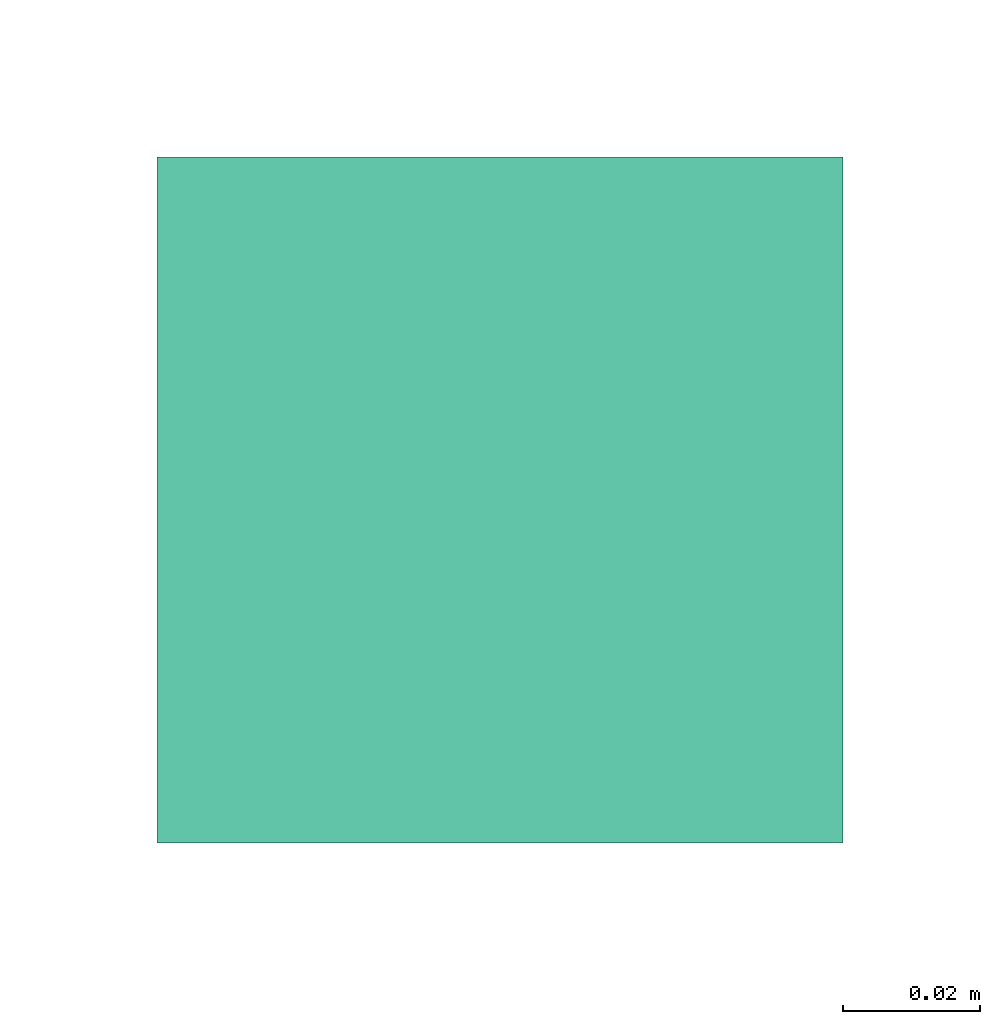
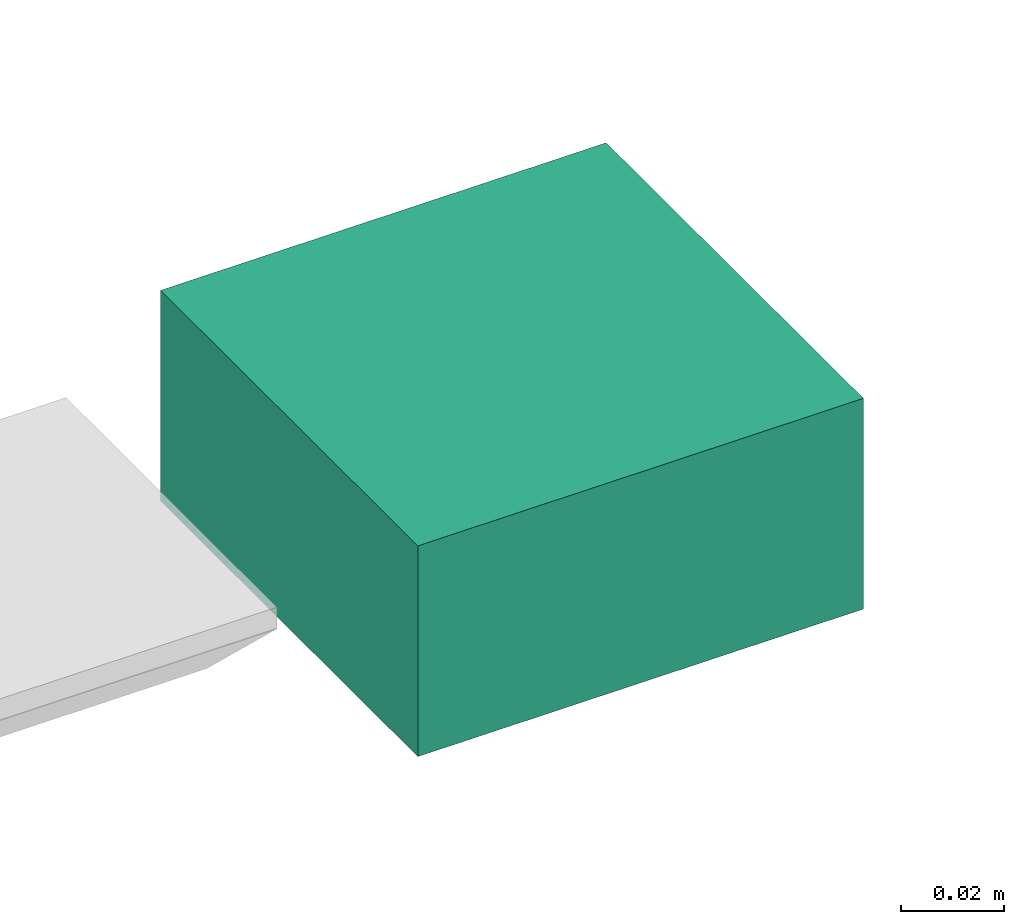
# One storey, part 4 of 14: 1 flow terminal.
"""IFC2X3 building model written with IfcOpenShell, lengths in millimetres."""

from ifc_helpers import new_model, entity, si_unit, converted_unit, derived_unit, direction, frame, origin_with_axes, place, context, subcontext, project, spatial, open_shell, surface_model, source, transform, mapped, type_object, element, save


model = new_model("IFC2X3")

# Units and contexts
model_context = context("Model", 3, precision=0.01, world=frame((0.0, 4.29681676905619e-09, 0.0)), true_north=direction((4.01073788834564e-13, 1.0)))
plan_context = context("Plan", 3, precision=0.01, world=frame((0.0, 4.29681676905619e-09, 0.0)), true_north=direction((4.01073788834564e-13, 1.0)))
body_context = subcontext(model_context, "Body", "Model", "MODEL_VIEW")
ifc_project = project(units=[converted_unit("PLANEANGLEUNIT", "DEGREE", entity("IfcPositiveLengthMeasure", 0.0174532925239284), si_unit("PLANEANGLEUNIT", "RADIAN"), dimensions=[0, 0, 0, 0, 0, 0, 0]), si_unit("AREAUNIT", "SQUARE_METRE"), si_unit("LENGTHUNIT", "METRE", prefix="MILLI"), si_unit("MASSUNIT", "GRAM", prefix="KILO"), si_unit("POWERUNIT", "WATT"), si_unit("PRESSUREUNIT", "PASCAL"), si_unit("FORCEUNIT", "NEWTON", prefix="KILO"), si_unit("ELECTRICVOLTAGEUNIT", "VOLT"), si_unit("ELECTRICCURRENTUNIT", "AMPERE"), si_unit("THERMODYNAMICTEMPERATUREUNIT", "DEGREE_CELSIUS"), si_unit("TIMEUNIT", "SECOND"), si_unit("VOLUMEUNIT", "CUBIC_METRE"), derived_unit("LINEARVELOCITYUNIT", [(si_unit("LENGTHUNIT", "METRE"), 1), (si_unit("TIMEUNIT", "SECOND"), -1)]), derived_unit("VOLUMETRICFLOWRATEUNIT", [(si_unit("VOLUMEUNIT", "CUBIC_METRE"), 1), (si_unit("TIMEUNIT", "SECOND"), -1)]), derived_unit("THERMALTRANSMITTANCEUNIT", [(si_unit("POWERUNIT", "WATT"), 1), (si_unit("THERMODYNAMICTEMPERATUREUNIT", "KELVIN"), -1), (si_unit("AREAUNIT", "SQUARE_METRE"), -1)]), derived_unit("SOUNDPRESSUREUNIT", [(si_unit("PRESSUREUNIT", "PASCAL"), 1)])], contexts=[model_context, plan_context])

# Site, building, storey
site_placement = place(None, frame((0.0, -4.29681676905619e-09, 0.0), z_axis=(0.0, 0.0, 1.0), x_axis=(1.0, 0.0, 0.0)))
site = spatial("IfcSite", under=ifc_project, at=site_placement, Name="ENGM", CompositionType="ELEMENT")
building_placement = place(site_placement, frame((0.0, 4.29681676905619e-09, 0.0), z_axis=(0.0, 0.0, 1.0), x_axis=(1.0, 0.0, 0.0)))
building = spatial("IfcBuilding", under=site, at=building_placement, Name="TH", CompositionType="ELEMENT")
storey_placement = place(building_placement, frame((0.0, 0.0, 205200.0), z_axis=(0.0, 0.0, 1.0), x_axis=(1.0, 0.0, 0.0)))
storey = spatial("IfcBuildingStorey", under=building, at=storey_placement, Name="Nivå D + 1,2 m", CompositionType="ELEMENT", Elevation=205200.0)

# Flow terminal
electric_appliance_type = type_object("IfcElectricApplianceType", Name="Motorstyrt ventil", PredefinedType="NOTDEFINED")
shared_shape = source(origin_with_axes(), body_context, "Body", "SurfaceModel", [
    surface_model("IfcShellBasedSurfaceModel", [(50.0, -50.0, 50.0), (50.0, 50.0, 50.0), (-50.0, 50.0, 50.0), (-50.0, -50.0, 50.0), (-50.0, -50.0, 0.0), (-50.0, 50.0, 0.0), (50.0, 50.0, 0.0), (50.0, -50.0, 0.0)], [open_shell([[[0, 1, 2]], [[2, 3, 0]], [[4, 5, 6]], [[6, 7, 4]], [[2, 1, 6]], [[6, 5, 2]], [[3, 2, 5]], [[5, 4, 3]], [[0, 3, 4]], [[4, 7, 0]], [[1, 0, 7]], [[7, 6, 1]]])]),
])
flow_terminal_placement = place(storey_placement, frame((902176.80367, 483115.75179, 4880.29045999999), z_axis=(0.0, 0.0, 1.0), x_axis=(0.0, 1.0, 0.0)))
element("IfcFlowTerminal", 1, at=flow_terminal_placement, inside=storey, type_object=electric_appliance_type, Name="Motorstyrt ventil", context=body_context, shape_type="MappedRepresentation", body=[
    mapped(shared_shape, transform((0.0, 0.0, 0.0), scale=1.0)),
])

save(model, "model.ifc")
